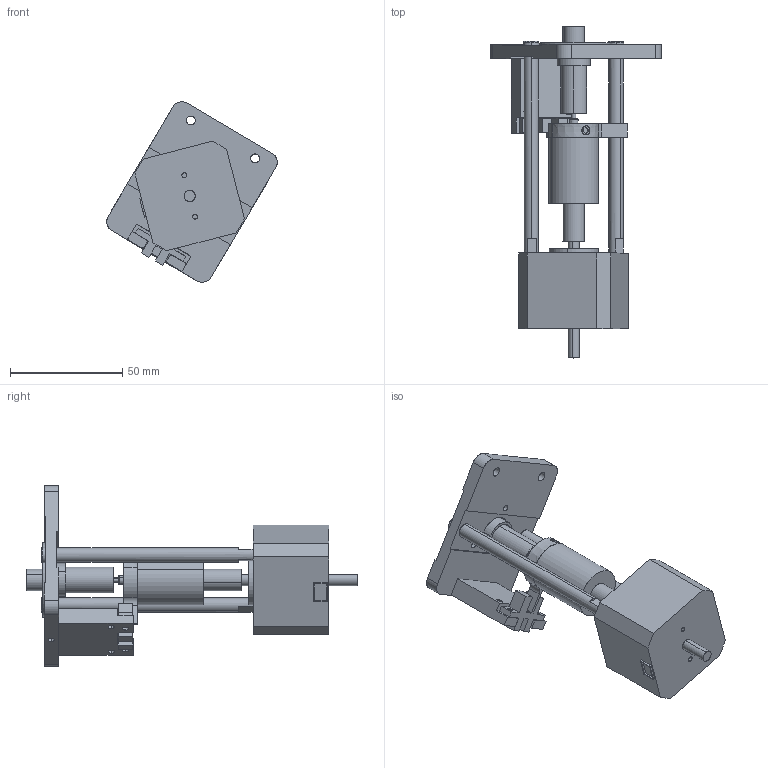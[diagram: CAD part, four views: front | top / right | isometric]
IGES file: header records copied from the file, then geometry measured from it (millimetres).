
Start section: SolidWorks IGES file using analytic representation for surfaces
Global section: file name: R:\ORIG\Model\Assembly Web\MOD91005\MOD91005 RB.IGS; native system: SolidWorks 2014; preprocessor: SolidWorks 2014; author: Slater.P; date: 151117.131335; units: inch
Bounding box: 75.92 x 147.83 x 80.41 mm (x, y, z)
Surface area: 39965 mm2 (no closed solid volume)
Topology: 0 solids, 0 shells, 445 faces, 6751 edges, 6749 vertices
Faces by surface type: bspline 237, revolution 208
